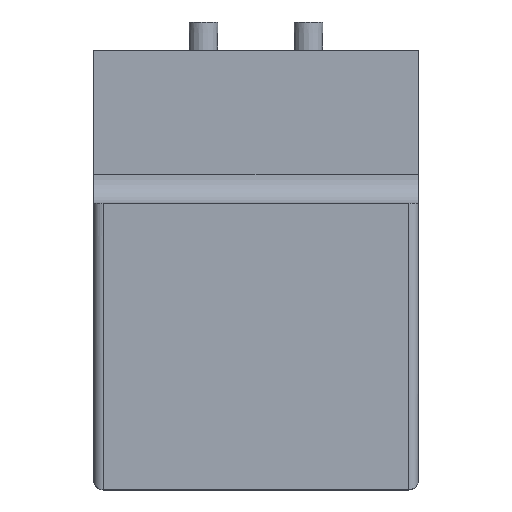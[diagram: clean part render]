
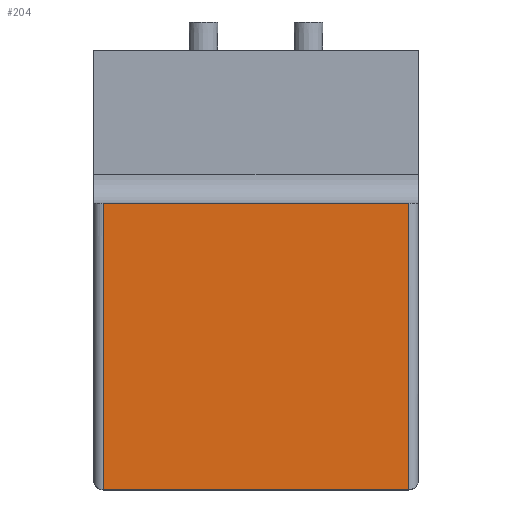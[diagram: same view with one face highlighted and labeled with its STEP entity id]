
A CAD part, top view. The second image highlights one B-rep face of the part: STEP entity #204.
In plain terms, the highlighted planar face has unit normal (0, 0, 1).
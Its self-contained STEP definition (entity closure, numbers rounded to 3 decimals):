
#204=ADVANCED_FACE('',(#499),#500,.F.);
#499=FACE_OUTER_BOUND('',#908,.T.);
#500=PLANE('',#909);
#908=EDGE_LOOP('',(#1462,#1463,#1464,#1465));
#909=AXIS2_PLACEMENT_3D('',#1466,#1467,#1468);
#1462=ORIENTED_EDGE('',*,*,#2074,.F.);
#1463=ORIENTED_EDGE('',*,*,#2125,.T.);
#1464=ORIENTED_EDGE('',*,*,#2126,.T.);
#1465=ORIENTED_EDGE('',*,*,#2115,.T.);
#1466=CARTESIAN_POINT('',(17.0,-46.0,13.5));
#1467=DIRECTION('',(0.0,0.0,-1.0));
#1468=DIRECTION('',(0.0,-1.0,0.0));
#2074=EDGE_CURVE('',#2316,#2417,#2418,.T.);
#2115=EDGE_CURVE('',#2477,#2417,#2478,.T.);
#2125=EDGE_CURVE('',#2316,#2490,#2491,.T.);
#2126=EDGE_CURVE('',#2490,#2477,#2492,.T.);
#2316=VERTEX_POINT('',#2757);
#2417=VERTEX_POINT('',#2887);
#2418=LINE('',#2888,#2889);
#2477=VERTEX_POINT('',#2961);
#2478=LINE('',#2962,#2963);
#2490=VERTEX_POINT('',#2979);
#2491=LINE('',#2980,#2981);
#2492=LINE('',#2982,#2983);
#2757=CARTESIAN_POINT('',(16.0,-46.0,13.5));
#2887=CARTESIAN_POINT('',(-16.0,-46.0,13.5));
#2888=CARTESIAN_POINT('',(17.0,-46.0,13.5));
#2889=VECTOR('',#3440,1.0);
#2961=CARTESIAN_POINT('',(-16.0,-16.0,13.5));
#2962=CARTESIAN_POINT('',(-16.0,-46.0,13.5));
#2963=VECTOR('',#3496,1.0);
#2979=CARTESIAN_POINT('',(16.0,-16.0,13.5));
#2980=CARTESIAN_POINT('',(16.0,-46.0,13.5));
#2981=VECTOR('',#3504,1.0);
#2982=CARTESIAN_POINT('',(17.0,-16.0,13.5));
#2983=VECTOR('',#3505,1.0);
#3440=DIRECTION('',(-1.0,0.0,0.0));
#3496=DIRECTION('',(0.0,-1.0,0.0));
#3504=DIRECTION('',(0.0,1.0,0.0));
#3505=DIRECTION('',(-1.0,0.0,0.0));
